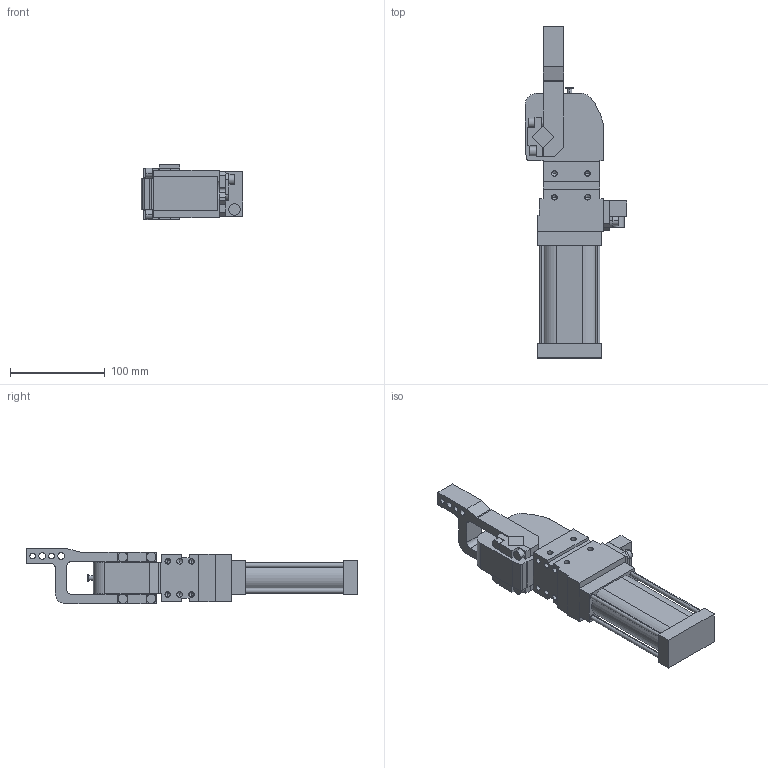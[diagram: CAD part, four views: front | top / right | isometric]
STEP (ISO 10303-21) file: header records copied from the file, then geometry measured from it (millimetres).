
FILE_DESCRIPTION (( 'STEP AP214' ), '1' );
FILE_NAME ('cpl40h2ssi1g_91.STEP', '2021-05-25T10:41:57', ( '' ), ( '' ), 'SwSTEP 2.0', 'SolidWorks 2021', '' );
FILE_SCHEMA (( 'AUTOMOTIVE_DESIGN' ));
Length unit declared in the file: millimetre
Products named in the file (5): cpl40h2ssi1g_91; leva_v2s_cpl40; piastra_blocchetto_cpl40; blocchetto_VEP_0_cpl40; meccanica_cpl40
Assembly tree (4 placements, depth 2):
  cpl40h2ssi1g_91
    meccanica_cpl40
    blocchetto_VEP_0_cpl40
    piastra_blocchetto_cpl40
    leva_v2s_cpl40
Bounding box: 107.5 x 350 x 58 mm (x, y, z)
Volume: 766996.9 mm3; surface area: 116235.2 mm2
Topology: 5 solids, 5 shells, 403 faces, 1025 edges, 639 vertices
Faces by surface type: plane 214, cylinder 141, cone 48
Entity records: 13408 total; most frequent: DIRECTION 2111, CARTESIAN_POINT 2028, ORIENTED_EDGE 1958, EDGE_CURVE 979, AXIS2_PLACEMENT_3D 722, VECTOR 667, LINE 667, VERTEX_POINT 639
